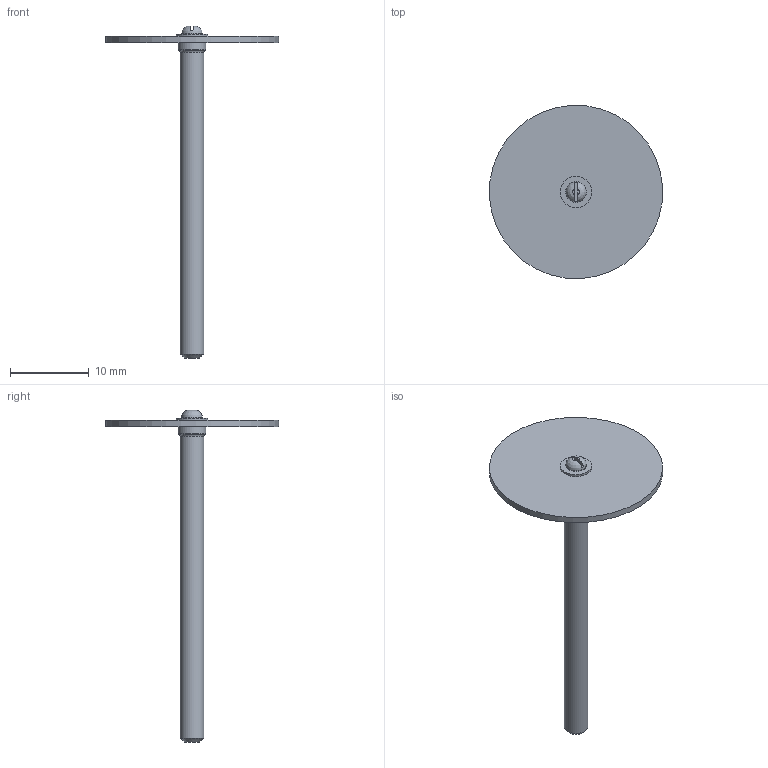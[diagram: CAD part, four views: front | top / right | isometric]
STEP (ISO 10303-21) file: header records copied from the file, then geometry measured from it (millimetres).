
FILE_DESCRIPTION(/* description */ (''),/* implementation_level */ '2;1');
FILE_NAME(/* name */ 'UF7322.stp',/* time_stamp */ '2026-08-10T11:52:20+03:00',/* author */ ('harel'),/* organization */ (''),/* preprocessor_version */ 'ST-DEVELOPER v20',/* originating_system */ 'Autodesk Inventor 2025',/* authorisation */ '');
FILE_SCHEMA (('AUTOMOTIVE_DESIGN { 1 0 10303 214 3 1 1 }'));
Length unit declared in the file: millimetre
Products named in the file (5): UF7313; Part5; disk; CNS 9671 - M1.4 x 4; ISO 7091 - ST 1.6 - 100 HV
Assembly tree (4 placements, depth 2):
  UF7313
    Part5
    disk
    CNS 9671 - M1.4 x 4
    ISO 7091 - ST 1.6 - 100 HV
Bounding box: 21.97 x 21.97 x 42.12 mm (x, y, z)
Volume: 594.4 mm3; surface area: 1286.3 mm2
Topology: 4 solids, 4 shells, 30 faces, 55 edges, 35 vertices
Faces by surface type: plane 12, cylinder 9, cone 4, torus 2, sphere 2, bspline 1
Full cylindrical faces by diameter (mm): 1.183 x1, 1.216 x1, 1.4 x1, 1.6 x1, 1.8 x1, 3 x1, 3.5 x1, 4 x1, 22 x1
Entity records: 1038 total; most frequent: CARTESIAN_POINT 194, DIRECTION 163, ORIENTED_EDGE 110, AXIS2_PLACEMENT_3D 74, EDGE_CURVE 55, EDGE_LOOP 36, CIRCLE 35, VERTEX_POINT 35
